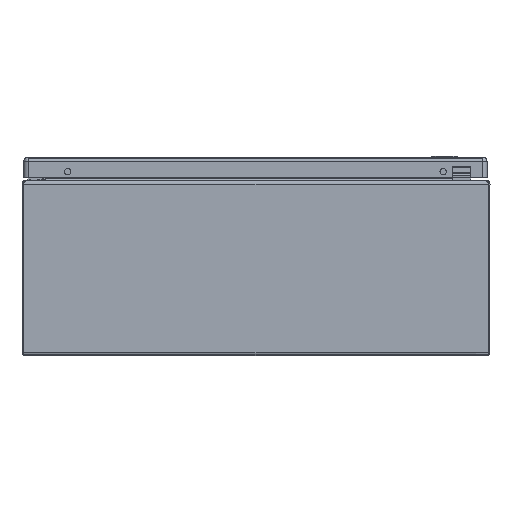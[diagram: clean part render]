
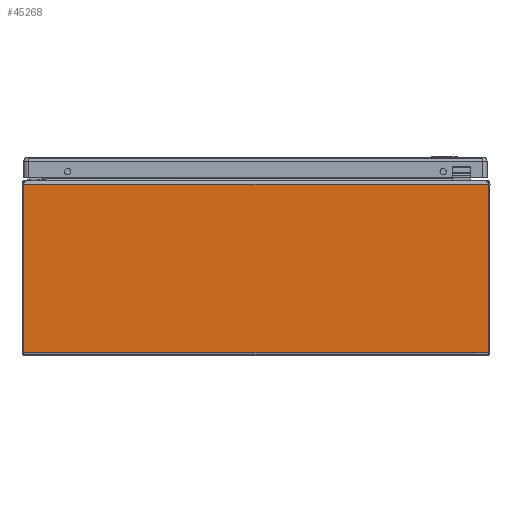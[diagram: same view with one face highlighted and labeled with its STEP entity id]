
A CAD part, front view. The second image highlights one B-rep face of the part: STEP entity #45268.
In plain terms, the highlighted planar face has unit normal (0, -1, 0).
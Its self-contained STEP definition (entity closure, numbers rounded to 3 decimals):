
#2811 = PLANE ( 'NONE',  #31360 ) ;
#2950 = CARTESIAN_POINT ( 'NONE',  ( -128., -12., 5.859 ) ) ;
#5929 = CARTESIAN_POINT ( 'NONE',  ( -7.947, -12., 0.097 ) ) ;
#19332 = LINE ( 'NONE', #23708, #19333 ) ;
#19333 = VECTOR ( 'NONE', #23698, 39.37 ) ;
#19391 = LINE ( 'NONE', #23682, #19401 ) ;
#19401 = VECTOR ( 'NONE', #23661, 39.37 ) ;
#19402 = VECTOR ( 'NONE', #23613, 39.37 ) ;
#19415 = LINE ( 'NONE', #23630, #19402 ) ;
#20152 = DIRECTION ( 'NONE',  ( 0., 0., 1. ) ) ;
#20153 = CARTESIAN_POINT ( 'NONE',  ( 7.947, -12., 5.859 ) ) ;
#21326 = FACE_OUTER_BOUND ( 'NONE', #35770, .T. ) ;
#23125 = EDGE_CURVE ( 'NONE', #40551, #41095, #19332, .T. ) ;
#23168 = EDGE_CURVE ( 'NONE', #40551, #40937, #19391, .T. ) ;
#23176 = EDGE_CURVE ( 'NONE', #41095, #40608, #19415, .T. ) ;
#23613 = DIRECTION ( 'NONE',  ( 1., 0., 0. ) ) ;
#23630 = CARTESIAN_POINT ( 'NONE',  ( -128., -12., 0.097 ) ) ;
#23661 = DIRECTION ( 'NONE',  ( 1., 0., 0. ) ) ;
#23682 = CARTESIAN_POINT ( 'NONE',  ( -128., -12., 5.859 ) ) ;
#23698 = DIRECTION ( 'NONE',  ( 0., 0., -1. ) ) ;
#23708 = CARTESIAN_POINT ( 'NONE',  ( -7.947, -12., 5.859 ) ) ;
#26930 = CARTESIAN_POINT ( 'NONE',  ( 7.947, -12., 5.859 ) ) ;
#27396 = CARTESIAN_POINT ( 'NONE',  ( 7.947, -12., 0.097 ) ) ;
#27515 = CARTESIAN_POINT ( 'NONE',  ( -7.947, -12., 5.859 ) ) ;
#30833 = EDGE_CURVE ( 'NONE', #40608, #40937, #45614, .T. ) ;
#31360 = AXIS2_PLACEMENT_3D ( 'NONE', #2950, #32299, #32301 ) ;
#32299 = DIRECTION ( 'NONE',  ( 0., -1., 0. ) ) ;
#32301 = DIRECTION ( 'NONE',  ( 0., 0., -1. ) ) ;
#35770 = EDGE_LOOP ( 'NONE', ( #42755, #42756, #42757, #44261 ) ) ;
#40551 = VERTEX_POINT ( 'NONE', #27515 ) ;
#40608 = VERTEX_POINT ( 'NONE', #27396 ) ;
#40937 = VERTEX_POINT ( 'NONE', #26930 ) ;
#41095 = VERTEX_POINT ( 'NONE', #5929 ) ;
#42755 = ORIENTED_EDGE ( 'NONE', *, *, #30833, .T. ) ;
#42756 = ORIENTED_EDGE ( 'NONE', *, *, #23168, .F. ) ;
#42757 = ORIENTED_EDGE ( 'NONE', *, *, #23125, .T. ) ;
#44261 = ORIENTED_EDGE ( 'NONE', *, *, #23176, .T. ) ;
#45268 = ADVANCED_FACE ( 'NONE', ( #21326 ), #2811, .T. ) ;
#45614 = LINE ( 'NONE', #20153, #45615 ) ;
#45615 = VECTOR ( 'NONE', #20152, 39.37 ) ;
